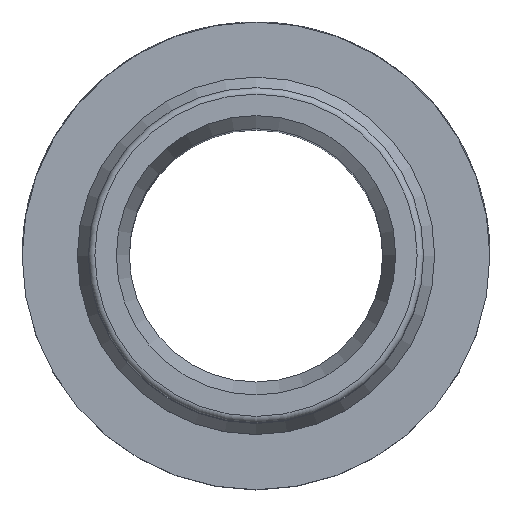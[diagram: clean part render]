
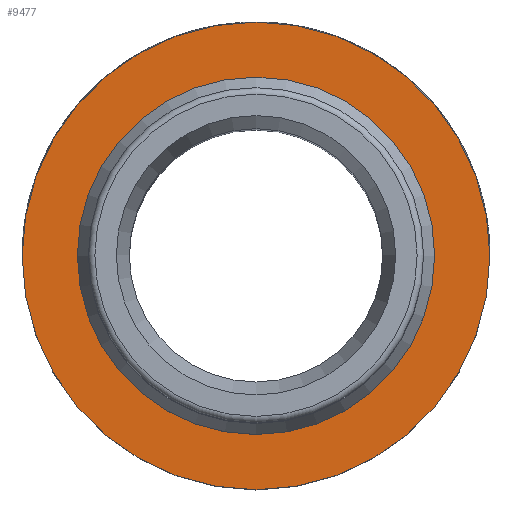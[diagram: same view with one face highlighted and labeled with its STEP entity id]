
A CAD part, top view. The second image highlights one B-rep face of the part: STEP entity #9477.
In plain terms, the highlighted planar face has unit normal (0, 0, 1).
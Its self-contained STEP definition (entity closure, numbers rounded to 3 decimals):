
#82=FACE_BOUND('',#2609,.T.);
#194=PLANE('',#9906);
#2046=FACE_OUTER_BOUND('',#2608,.T.);
#2608=EDGE_LOOP('',(#8716,#8717));
#2609=EDGE_LOOP('',(#8718,#8719));
#2767=CIRCLE('',#9759,18.);
#2768=CIRCLE('',#9760,18.);
#2865=CIRCLE('',#9904,13.25);
#2866=CIRCLE('',#9905,13.25);
#4407=VERTEX_POINT('',#22159);
#4408=VERTEX_POINT('',#22161);
#4499=VERTEX_POINT('',#22419);
#4500=VERTEX_POINT('',#22420);
#5803=EDGE_CURVE('',#4407,#4408,#2767,.T.);
#5804=EDGE_CURVE('',#4408,#4407,#2768,.T.);
#5923=EDGE_CURVE('',#4499,#4500,#2865,.T.);
#5924=EDGE_CURVE('',#4500,#4499,#2866,.T.);
#8716=ORIENTED_EDGE('',*,*,#5804,.F.);
#8717=ORIENTED_EDGE('',*,*,#5803,.F.);
#8718=ORIENTED_EDGE('',*,*,#5923,.T.);
#8719=ORIENTED_EDGE('',*,*,#5924,.T.);
#9477=ADVANCED_FACE('',(#2046,#82),#194,.T.);
#9759=AXIS2_PLACEMENT_3D('',#22162,#10944,#10945);
#9760=AXIS2_PLACEMENT_3D('',#22163,#10946,#10947);
#9904=AXIS2_PLACEMENT_3D('',#22421,#11256,#11257);
#9905=AXIS2_PLACEMENT_3D('',#22422,#11258,#11259);
#9906=AXIS2_PLACEMENT_3D('',#22424,#11261,#11262);
#10944=DIRECTION('center_axis',(0.,0.,-1.));
#10945=DIRECTION('ref_axis',(1.,0.,0.));
#10946=DIRECTION('center_axis',(0.,0.,-1.));
#10947=DIRECTION('ref_axis',(1.,0.,0.));
#11256=DIRECTION('center_axis',(0.,0.,-1.));
#11257=DIRECTION('ref_axis',(1.,0.,0.));
#11258=DIRECTION('center_axis',(0.,0.,-1.));
#11259=DIRECTION('ref_axis',(1.,0.,0.));
#11261=DIRECTION('center_axis',(0.,0.,1.));
#11262=DIRECTION('ref_axis',(1.,0.,0.));
#22159=CARTESIAN_POINT('',(0.,-18.,38.5));
#22161=CARTESIAN_POINT('',(0.,18.,38.5));
#22162=CARTESIAN_POINT('Origin',(0.,0.,38.5));
#22163=CARTESIAN_POINT('Origin',(0.,0.,38.5));
#22419=CARTESIAN_POINT('',(0.,13.25,38.5));
#22420=CARTESIAN_POINT('',(0.,-13.25,38.5));
#22421=CARTESIAN_POINT('Origin',(0.,0.,38.5));
#22422=CARTESIAN_POINT('Origin',(0.,0.,38.5));
#22424=CARTESIAN_POINT('Origin',(0.,18.,38.5));
